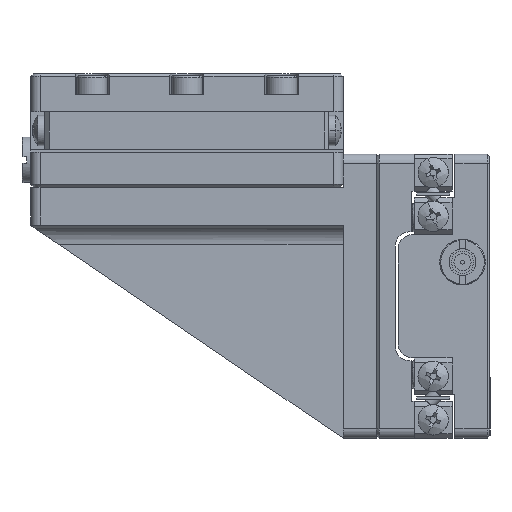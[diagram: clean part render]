
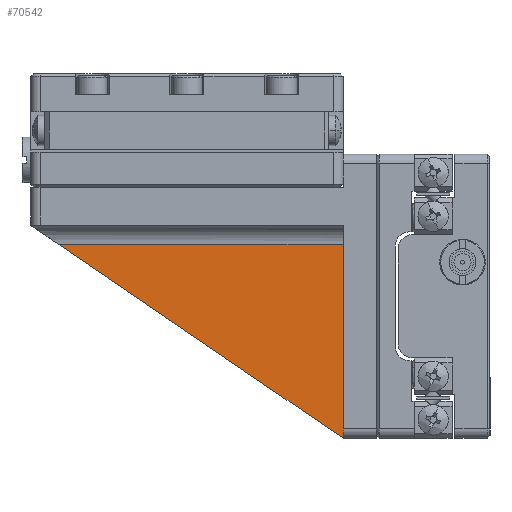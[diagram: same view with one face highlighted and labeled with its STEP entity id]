
A CAD part, left-side view. The second image highlights one B-rep face of the part: STEP entity #70542.
In plain terms, the highlighted planar face has unit normal (-1, 0, 0).
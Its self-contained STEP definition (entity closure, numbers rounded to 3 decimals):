
#745 = DIRECTION ( 'NONE',  ( -1., 0., 0. ) ) ;
#6904 = DIRECTION ( 'NONE',  ( 0., -0.826, -0.563 ) ) ;
#10736 = VERTEX_POINT ( 'NONE', #48036 ) ;
#12036 = AXIS2_PLACEMENT_3D ( 'NONE', #60060, #745, #37778 ) ;
#12730 = FACE_OUTER_BOUND ( 'NONE', #64008, .T. ) ;
#15494 = PLANE ( 'NONE',  #12036 ) ;
#20221 = CARTESIAN_POINT ( 'NONE',  ( -47.464, 1.849, 5.588 ) ) ;
#22274 = VECTOR ( 'NONE', #6904, 1000. ) ;
#25663 = ORIENTED_EDGE ( 'NONE', *, *, #44383, .T. ) ;
#26894 = LINE ( 'NONE', #56531, #22274 ) ;
#27682 = DIRECTION ( 'NONE',  ( 0., 0., 1. ) ) ;
#37778 = DIRECTION ( 'NONE',  ( 0., 0., 1. ) ) ;
#39522 = LINE ( 'NONE', #80055, #92755 ) ;
#44383 = EDGE_CURVE ( 'NONE', #62306, #72200, #47059, .T. ) ;
#45235 = EDGE_CURVE ( 'NONE', #72200, #10736, #26894, .T. ) ;
#47059 = LINE ( 'NONE', #58691, #81814 ) ;
#48036 = CARTESIAN_POINT ( 'NONE',  ( -47.464, 1.849, -14.912 ) ) ;
#49006 = ORIENTED_EDGE ( 'NONE', *, *, #89526, .T. ) ;
#52488 = ORIENTED_EDGE ( 'NONE', *, *, #45235, .T. ) ;
#56531 = CARTESIAN_POINT ( 'NONE',  ( -47.464, 1.849, -14.912 ) ) ;
#58691 = CARTESIAN_POINT ( 'NONE',  ( -47.464, -1.651, 5.588 ) ) ;
#60060 = CARTESIAN_POINT ( 'NONE',  ( -47.464, -1.651, 0.088 ) ) ;
#62306 = VERTEX_POINT ( 'NONE', #20221 ) ;
#64008 = EDGE_LOOP ( 'NONE', ( #49006, #25663, #52488 ) ) ;
#69433 = CARTESIAN_POINT ( 'NONE',  ( -47.464, 31.916, 5.588 ) ) ;
#70542 = ADVANCED_FACE ( 'NONE', ( #12730 ), #15494, .T. ) ;
#72200 = VERTEX_POINT ( 'NONE', #69433 ) ;
#74197 = DIRECTION ( 'NONE',  ( 0., 1., 0. ) ) ;
#80055 = CARTESIAN_POINT ( 'NONE',  ( -47.464, 1.849, 7.588 ) ) ;
#81814 = VECTOR ( 'NONE', #74197, 1000. ) ;
#89526 = EDGE_CURVE ( 'NONE', #10736, #62306, #39522, .T. ) ;
#92755 = VECTOR ( 'NONE', #27682, 1000. ) ;
